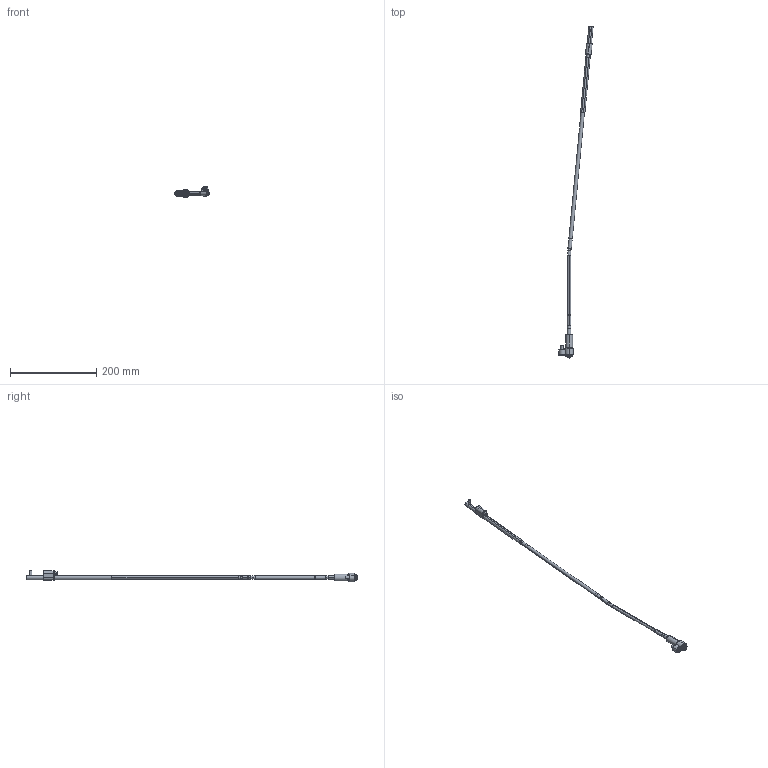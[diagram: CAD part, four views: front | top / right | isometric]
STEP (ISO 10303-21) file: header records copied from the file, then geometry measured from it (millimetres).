
FILE_DESCRIPTION (( 'STEP AP214' ), '1' );
FILE_NAME ('WL080125-INJ 5,5°.STEP', '2021-03-19T15:31:36', ( '' ), ( '' ), 'SwSTEP 2.0', 'SolidWorks 2019', '' );
FILE_SCHEMA (( 'AUTOMOTIVE_DESIGN' ));
Length unit declared in the file: millimetre
Products named in the file (17): Web-WL08-A2; WL080100-D; Web-WL08-F01; Web-WL08XX-A7_OFF-WL080125-5,5; WL080125-INJ 5,5°; Web-WL08-A1; WL080100-B_WL0800FF; 1DIN912545_DIN 912 M5 x 50 --- 50C; WL080100-B1_WL0800FF-1; 3IMAN4X2-150_con sello; Web-WP08-1; Web-WL08-F00.SLDPRT; Web-WL08-A3; 1DIN912616_DIN 912 M6 x 16 --- 16C; WL080100-C; WL080100-E; 9DR2206-TOR
Assembly tree (16 placements, depth 3):
  WL080125-INJ 5,5°
    Web-WP08-1
    Web-WL08XX-A7_OFF-WL080125-5,5
    Web-WL08-A3
    Web-WL08-A2
    Web-WL08-A1
    WL080100-D
    WL080100-C
    WL080100-B_WL0800FF
      WL080100-B1_WL0800FF-1
      3IMAN4X2-150_con sello
    WL080100-E
    9DR2206-TOR
    Web-WL08-F00.SLDPRT
      Web-WL08-F01
      1DIN912545_DIN 912 M5 x 50 --- 50C
      1DIN912616_DIN 912 M6 x 16 --- 16C
Bounding box: 79.53 x 770.02 x 26.9 mm (x, y, z)
Volume: 58701.5 mm3; surface area: 34415.9 mm2
Topology: 15 solids, 15 shells, 424 faces, 888 edges, 516 vertices
Faces by surface type: plane 132, cylinder 128, cone 116, torus 48
Entity records: 13492 total; most frequent: DIRECTION 2218, CARTESIAN_POINT 2045, ORIENTED_EDGE 1756, AXIS2_PLACEMENT_3D 921, EDGE_CURVE 878, VERTEX_POINT 516, CIRCLE 476, EDGE_LOOP 468
